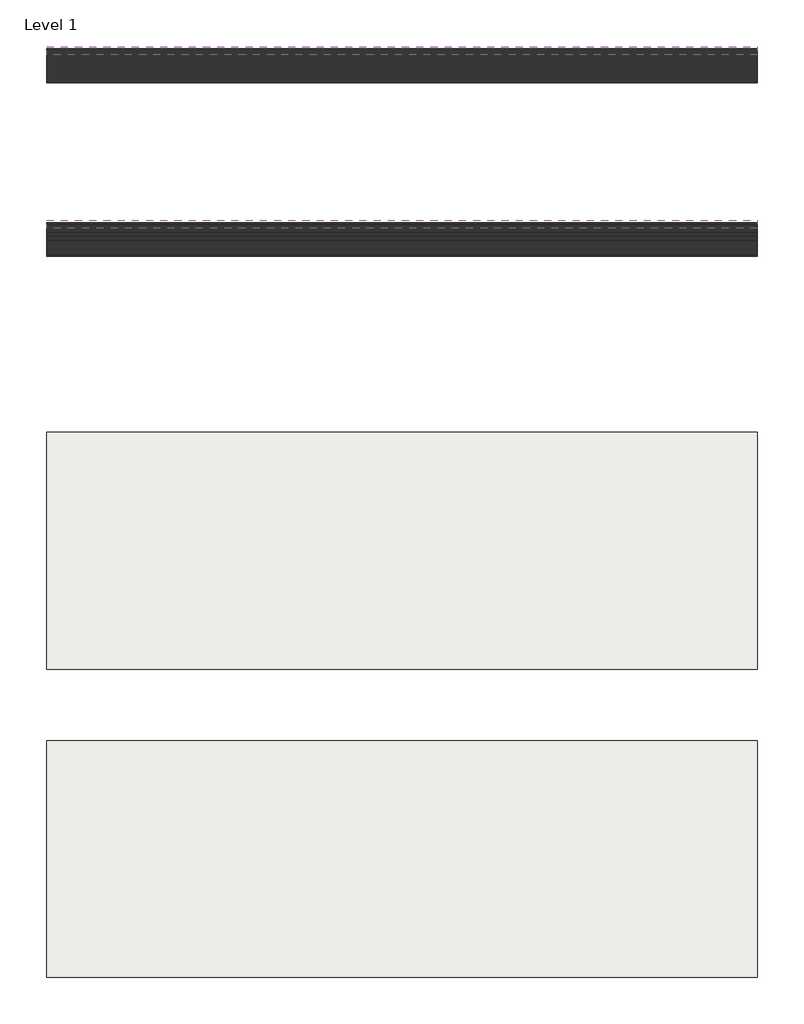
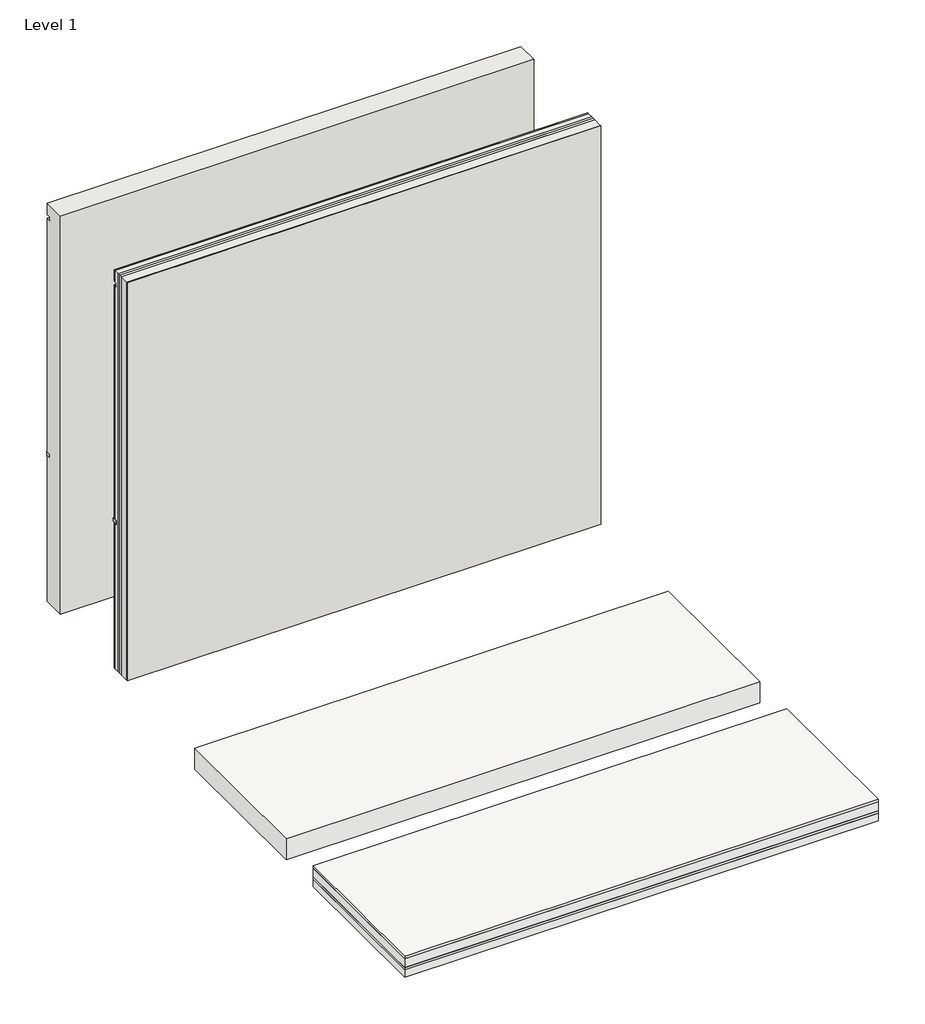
# One storey: 2 proxies, 2 slabs, 2 walls.
"""IFC4 building model written with IfcOpenShell, lengths in millimetres."""

from ifc_helpers import new_model, si_unit, frame, origin, origin_with_axes, place, context, project, spatial, polyline, outline, extrude, faceted_brep, element, save

model = new_model("IFC4")

# Units and contexts
model_context = context("Model", 3, world=origin())
ifc_project = project(units=[si_unit("LENGTHUNIT", "METRE", prefix="MILLI")], contexts=[model_context])

# Site, building, storey
site = spatial("IfcSite", under=ifc_project)
building = spatial("IfcBuilding", under=site)
storey = spatial("IfcBuildingStorey", under=building, Name="Level 1", Elevation=0.0)

# Proxies
placement = place(None, origin())
element("IfcBuildingElementProxy", 1, Name="Reveals", at=placement, inside=storey, context=model_context, shape_type="SweptSolid", body=[
    extrude(outline(polyline([(-12762.7235658, 9124.9834971), (-12762.7235658, 9227.4834971), (-3762.7235658, 9227.4834971), (-3762.7235658, 9124.9834971), (-12762.7235658, 9124.9834971)])), frame((0.0, 0.0, 2925.0), z_axis=(0.0, 0.0, 1.0), x_axis=(1.0, 0.0, 0.0)), (0.0, 0.0, 1.0), 75.0),
])
element("IfcBuildingElementProxy", 2, Name="Reveals", at=placement, inside=storey, context=model_context, shape_type="SweptSolid", body=[
    extrude(outline(polyline([(-12762.7235658, 6924.9834971), (-12762.7235658, 7027.4834971), (-3762.7235658, 7027.4834971), (-3762.7235658, 6924.9834971), (-12762.7235658, 6924.9834971)])), frame((0.0, 0.0, 2925.0), z_axis=(0.0, 0.0, 1.0), x_axis=(1.0, 0.0, 0.0)), (0.0, 0.0, 1.0), 75.0),
])

# Slabs
element("IfcSlab", 3, ObjectType="Concrete-Domestic 425mm", at=placement, inside=storey, context=model_context, shape_type="SweptSolid", body=[
    extrude(outline(polyline([(-3762.7235658, 4341.6997016), (-3762.7235658, 1341.6997016), (-12762.7235658, 1341.6997016), (-12762.7235658, 4341.6997016), (-3762.7235658, 4341.6997016)])), frame((0.0, 0.0, -425.0), z_axis=(0.0, 0.0, 1.0), x_axis=(1.0, 0.0, 0.0)), (0.0, 0.0, 1.0), 425.0),
])
element("IfcSlab", 4, ObjectType="Concrete-Domestic 425mm", at=placement, inside=storey, context=model_context, shape_type="SweptSolid", body=[
    extrude(outline(polyline([(-3762.7235658, 441.6997016), (-3762.7235658, -2558.3002984), (-12762.7235658, -2558.3002984), (-12762.7235658, 441.6997016), (-3762.7235658, 441.6997016)])), frame((0.0, 0.0, -50.0), z_axis=(0.0, 0.0, 1.0), x_axis=(1.0, 0.0, 0.0)), (0.0, 0.0, 1.0), 50.0),
    extrude(outline(polyline([(-3762.7235658, 441.6997016), (-3762.7235658, -2558.3002984), (-12762.7235658, -2558.3002984), (-12762.7235658, 441.6997016), (-3762.7235658, 441.6997016)])), frame((0.0, 0.0, -225.0), z_axis=(0.0, 0.0, 1.0), x_axis=(1.0, 0.0, 0.0)), (0.0, 0.0, 1.0), 175.0),
    extrude(outline(polyline([(-3762.7235658, 441.6997016), (-3762.7235658, -2558.3002984), (-12762.7235658, -2558.3002984), (-12762.7235658, 441.6997016), (-3762.7235658, 441.6997016)])), frame((0.0, 0.0, -275.0), z_axis=(0.0, 0.0, 1.0), x_axis=(1.0, 0.0, 0.0)), (0.0, 0.0, 1.0), 50.0),
    extrude(outline(polyline([(-3762.7235658, 441.6997016), (-3762.7235658, -2558.3002984), (-12762.7235658, -2558.3002984), (-12762.7235658, 441.6997016), (-3762.7235658, 441.6997016)])), frame((0.0, 0.0, -425.0), z_axis=(0.0, 0.0, 1.0), x_axis=(1.0, 0.0, 0.0)), (0.0, 0.0, 1.0), 150.0),
])

# Walls
element("IfcWall", 5, ObjectType="Exterior - Render on Brick on Block", at=placement, inside=storey, context=model_context, shape_type="SweptSolid", body=[
    extrude(outline(polyline([(8770.9834971, 0.0), (8770.9834971, 8000.0), (9199.9834971, 8000.0), (9199.9834971, 7775.0), (9124.9834971, 7775.0), (9124.9834971, 7700.0), (9199.9834971, 7700.0), (9199.9834971, 3000.0), (9124.9834971, 3000.0), (9124.9834971, 2925.0), (9199.9834971, 2925.0), (9199.9834971, 0.0), (9174.9834971, 0.0), (8770.9834971, 0.0)])), frame((-12762.7235658, 0.0, 0.0), z_axis=(1.0, 0.0, 0.0), x_axis=(0.0, 1.0, 0.0)), (0.0, 0.0, 1.0), 9000.0),
])
element("IfcWall", 6, ObjectType="Exterior - Render on Brick on Block", at=placement, inside=storey, context=model_context, shape_type="SolidModel", body=[
    extrude(outline(polyline([(-12762.7235658, 6999.9834971), (-3762.7235658, 6999.9834971), (-3762.7235658, 6974.9834971), (-12762.7235658, 6974.9834971), (-12762.7235658, 6999.9834971)])), origin_with_axes(), (0.0, 0.0, 1.0), 2925.0),
    extrude(outline(polyline([(-12762.7235658, 6999.9834971), (-3762.7235658, 6999.9834971), (-3762.7235658, 6974.9834971), (-12762.7235658, 6974.9834971), (-12762.7235658, 6999.9834971)])), frame((0.0, 0.0, 7775.0), z_axis=(0.0, 0.0, 1.0), x_axis=(1.0, 0.0, 0.0)), (0.0, 0.0, 1.0), 225.0),
    extrude(outline(polyline([(-3762.7235658, 6974.9834971), (-12762.7235658, 6974.9834971), (-12762.7235658, 6999.9834971), (-3762.7235658, 6999.9834971), (-3762.7235658, 6974.9834971)])), frame((0.0, 0.0, 3000.0), z_axis=(0.0, 0.0, 1.0), x_axis=(1.0, 0.0, 0.0)), (0.0, 0.0, 1.0), 4700.0),
    faceted_brep([(-3762.7235658, 6822.9834971, 3000.0), (-3762.7235658, 6822.9834971, 0.0), (-12762.7235658, 6822.9834971, 0.0), (-12762.7235658, 6822.9834971, 3000.0), (-12762.7235658, 6822.9834971, 8000.0), (-3762.7235658, 6822.9834971, 8000.0), (-3762.7235658, 6772.9834971, 3000.0), (-3762.7235658, 6772.9834971, 0.0), (-3762.7235658, 6772.9834971, 8000.0), (-12762.7235658, 6772.9834971, 0.0), (-12762.7235658, 6772.9834971, 3000.0), (-12762.7235658, 6772.9834971, 8000.0)], [[[0, 1, 2, 3, 4, 5]], [[6, 7, 1, 0, 5, 8]], [[9, 10, 11, 4, 3, 2]], [[7, 9, 2, 1]], [[7, 6, 8, 11, 10, 9]], [[11, 8, 5, 4]]]),
    faceted_brep([(-3762.7235658, 6570.9834971, 3000.0), (-3762.7235658, 6570.9834971, 0.0), (-3762.7235658, 6582.9834971, 0.0), (-3762.7235658, 6582.9834971, 3000.0), (-3762.7235658, 6582.9834971, 8000.0), (-3762.7235658, 6570.9834971, 8000.0), (-12762.7235658, 6570.9834971, 0.0), (-12762.7235658, 6570.9834971, 3000.0), (-12762.7235658, 6570.9834971, 8000.0), (-12762.7235658, 6582.9834971, 8000.0), (-12762.7235658, 6582.9834971, 3000.0), (-12762.7235658, 6582.9834971, 0.0)], [[[0, 1, 2, 3, 4, 5]], [[6, 7, 8, 9, 10, 11]], [[2, 1, 6, 11]], [[3, 2, 11, 10, 9, 4]], [[1, 0, 5, 8, 7, 6]], [[8, 5, 4, 9]]]),
    faceted_brep([(-3762.7235658, 6582.9834971, 0.0), (-3762.7235658, 6772.9834971, 0.0), (-3762.7235658, 6772.9834971, 3000.0), (-3762.7235658, 6772.9834971, 8000.0), (-3762.7235658, 6582.9834971, 8000.0), (-3762.7235658, 6582.9834971, 3000.0), (-12762.7235658, 6772.9834971, 3000.0), (-12762.7235658, 6772.9834971, 0.0), (-12762.7235658, 6582.9834971, 0.0), (-12762.7235658, 6582.9834971, 3000.0), (-12762.7235658, 6582.9834971, 8000.0), (-12762.7235658, 6772.9834971, 8000.0)], [[[0, 1, 2, 3, 4, 5]], [[6, 7, 8, 9, 10, 11]], [[1, 0, 8, 7]], [[2, 1, 7, 6, 11, 3]], [[0, 5, 4, 10, 9, 8]], [[3, 11, 10, 4]]]),
    faceted_brep([(-3762.7235658, 6822.9834971, 0.0), (-3762.7235658, 6872.9834971, 0.0), (-3762.7235658, 6872.9834971, 3000.0), (-3762.7235658, 6872.9834971, 8000.0), (-3762.7235658, 6822.9834971, 8000.0), (-3762.7235658, 6822.9834971, 3000.0), (-12762.7235658, 6872.9834971, 3000.0), (-12762.7235658, 6872.9834971, 0.0), (-12762.7235658, 6822.9834971, 0.0), (-12762.7235658, 6822.9834971, 3000.0), (-12762.7235658, 6822.9834971, 8000.0), (-12762.7235658, 6872.9834971, 8000.0)], [[[0, 1, 2, 3, 4, 5]], [[6, 7, 8, 9, 10, 11]], [[1, 0, 8, 7]], [[2, 1, 7, 6, 11, 3]], [[0, 5, 4, 10, 9, 8]], [[3, 11, 10, 4]]]),
    faceted_brep([(-3762.7235658, 6872.9834971, 0.0), (-3762.7235658, 6872.9834971, 3000.0), (-3762.7235658, 6872.9834971, 8000.0), (-12762.7235658, 6872.9834971, 8000.0), (-12762.7235658, 6872.9834971, 3000.0), (-12762.7235658, 6872.9834971, 0.0), (-3762.7235658, 6974.9834971, 0.0), (-3762.7235658, 6974.9834971, 2925.0), (-3762.7235658, 6924.9834971, 2925.0), (-3762.7235658, 6924.9834971, 3000.0), (-3762.7235658, 6974.9834971, 3000.0), (-3762.7235658, 6974.9834971, 7700.0), (-3762.7235658, 6924.9834971, 7700.0), (-3762.7235658, 6924.9834971, 7775.0), (-3762.7235658, 6974.9834971, 7775.0), (-3762.7235658, 6974.9834971, 8000.0), (-12762.7235658, 6974.9834971, 8000.0), (-12762.7235658, 6974.9834971, 7775.0), (-12762.7235658, 6924.9834971, 7775.0), (-12762.7235658, 6924.9834971, 7700.0), (-12762.7235658, 6974.9834971, 7700.0), (-12762.7235658, 6974.9834971, 3000.0), (-12762.7235658, 6924.9834971, 3000.0), (-12762.7235658, 6924.9834971, 2925.0), (-12762.7235658, 6974.9834971, 2925.0), (-12762.7235658, 6974.9834971, 0.0)], [[[0, 1, 2, 3, 4, 5]], [[1, 0, 6, 7, 8, 9, 10, 11, 12, 13, 14, 15, 2]], [[5, 4, 3, 16, 17, 18, 19, 20, 21, 22, 23, 24, 25]], [[0, 5, 25, 6]], [[9, 8, 23, 22]], [[7, 6, 25, 24]], [[8, 7, 24, 23]], [[22, 21, 10, 9]], [[15, 14, 17, 16]], [[17, 14, 13, 18]], [[15, 16, 3, 2]], [[10, 21, 20, 11]], [[12, 11, 20, 19]], [[13, 12, 19, 18]]]),
])

save(model, "model.ifc")
